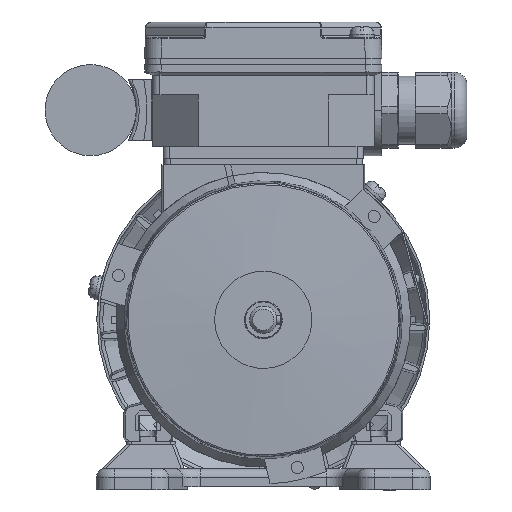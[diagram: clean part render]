
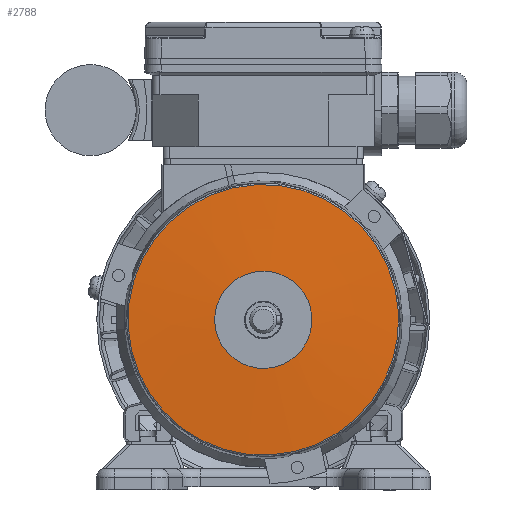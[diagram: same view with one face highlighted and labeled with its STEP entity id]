
A CAD part, left-side view. The second image highlights one B-rep face of the part: STEP entity #2788.
In plain terms, the highlighted conical face has half-angle 87.039 degrees and reference radius 16 mm.
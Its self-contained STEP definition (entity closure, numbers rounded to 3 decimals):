
#2788 = ADVANCED_FACE( '', ( #6575, #6576 ), #6577, .T. );
#6575 = FACE_OUTER_BOUND( '', #13297, .T. );
#6576 = FACE_BOUND( '', #13298, .T. );
#6577 = CONICAL_SURFACE( '', #13299, 16., 1.519 );
#13297 = EDGE_LOOP( '', ( #23735 ) );
#13298 = EDGE_LOOP( '', ( #23736 ) );
#13299 = AXIS2_PLACEMENT_3D( '', #23737, #23738, #23739 );
#23735 = ORIENTED_EDGE( '', *, *, #38491, .T. );
#23736 = ORIENTED_EDGE( '', *, *, #38492, .F. );
#23737 = CARTESIAN_POINT( '', ( 0., 1., 0. ) );
#23738 = DIRECTION( '', ( 0., 1., 0. ) );
#23739 = DIRECTION( '', ( 0., 0., 1. ) );
#38491 = EDGE_CURVE( '', #46177, #46177, #46178, .T. );
#38492 = EDGE_CURVE( '', #46179, #46179, #46180, .T. );
#46177 = VERTEX_POINT( '', #57533 );
#46178 = CIRCLE( '', #57534, 44.539 );
#46179 = VERTEX_POINT( '', #57535 );
#46180 = CIRCLE( '', #57536, 16. );
#57533 = CARTESIAN_POINT( '', ( 0., 2.476, -44.539 ) );
#57534 = AXIS2_PLACEMENT_3D( '', #72952, #72953, #72954 );
#57535 = CARTESIAN_POINT( '', ( 0., 1., -16. ) );
#57536 = AXIS2_PLACEMENT_3D( '', #72955, #72956, #72957 );
#72952 = CARTESIAN_POINT( '', ( 0., 2.476, 0. ) );
#72953 = DIRECTION( '', ( 0., -1., 0. ) );
#72954 = DIRECTION( '', ( 0., 0., -1. ) );
#72955 = CARTESIAN_POINT( '', ( 0., 1., 0. ) );
#72956 = DIRECTION( '', ( 0., -1., 0. ) );
#72957 = DIRECTION( '', ( 0., 0., -1. ) );
